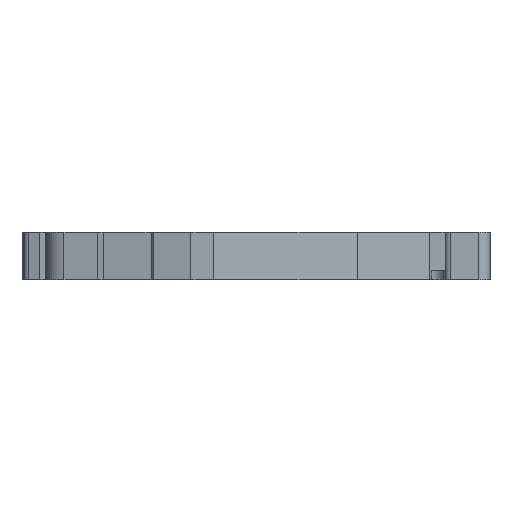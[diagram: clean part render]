
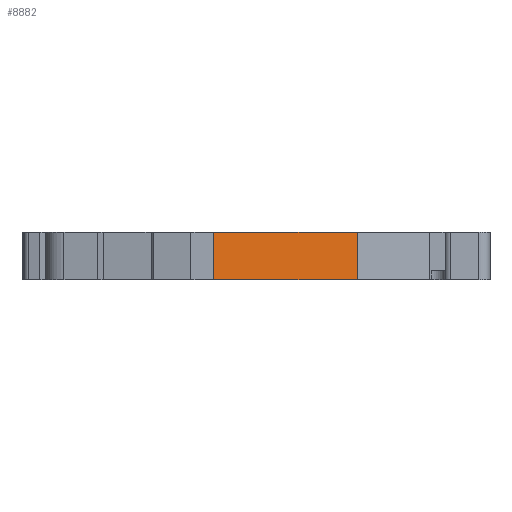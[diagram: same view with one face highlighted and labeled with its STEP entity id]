
A CAD part, left-side view. The second image highlights one B-rep face of the part: STEP entity #8882.
In plain terms, the highlighted planar face has unit normal (-0.979, -0.202, 0).
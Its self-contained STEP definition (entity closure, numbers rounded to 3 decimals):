
#408 = CARTESIAN_POINT ( 'NONE',  ( -31.082, 5.445, 3.253 ) ) ;
#756 = ORIENTED_EDGE ( 'NONE', *, *, #5221, .F. ) ;
#1021 = CARTESIAN_POINT ( 'NONE',  ( -31.082, 5.445, -0.947 ) ) ;
#1729 = FACE_OUTER_BOUND ( 'NONE', #4210, .T. ) ;
#1760 = AXIS2_PLACEMENT_3D ( 'NONE', #6964, #6794, #6775 ) ;
#2132 = EDGE_CURVE ( 'NONE', #5382, #10700, #8322, .T. ) ;
#2243 = DIRECTION ( 'NONE',  ( 0.202, -0.979, 0. ) ) ;
#2285 = CARTESIAN_POINT ( 'NONE',  ( -31.082, 5.445, -0.947 ) ) ;
#2337 = CARTESIAN_POINT ( 'NONE',  ( -28.445, -7.324, -0.947 ) ) ;
#2589 = ORIENTED_EDGE ( 'NONE', *, *, #2132, .T. ) ;
#3218 = DIRECTION ( 'NONE',  ( 0.202, -0.979, 0. ) ) ;
#3660 = LINE ( 'NONE', #4354, #7634 ) ;
#3939 = LINE ( 'NONE', #8839, #8306 ) ;
#4146 = ORIENTED_EDGE ( 'NONE', *, *, #4239, .T. ) ;
#4210 = EDGE_LOOP ( 'NONE', ( #4146, #9402, #756, #2589 ) ) ;
#4239 = EDGE_CURVE ( 'NONE', #10700, #4848, #11152, .T. ) ;
#4354 = CARTESIAN_POINT ( 'NONE',  ( -31.082, 5.445, 3.253 ) ) ;
#4660 = DIRECTION ( 'NONE',  ( 0., 0., -1. ) ) ;
#4848 = VERTEX_POINT ( 'NONE', #2337 ) ;
#5221 = EDGE_CURVE ( 'NONE', #5382, #9749, #3660, .T. ) ;
#5382 = VERTEX_POINT ( 'NONE', #408 ) ;
#5466 = VECTOR ( 'NONE', #8926, 1000. ) ;
#6775 = DIRECTION ( 'NONE',  ( -0.202, 0.979, 0. ) ) ;
#6794 = DIRECTION ( 'NONE',  ( 0.979, 0.202, 0. ) ) ;
#6806 = PLANE ( 'NONE',  #1760 ) ;
#6964 = CARTESIAN_POINT ( 'NONE',  ( -31.082, 5.445, 3.253 ) ) ;
#7634 = VECTOR ( 'NONE', #3218, 1000. ) ;
#8306 = VECTOR ( 'NONE', #4660, 1000. ) ;
#8322 = LINE ( 'NONE', #8327, #5466 ) ;
#8327 = CARTESIAN_POINT ( 'NONE',  ( -31.082, 5.445, 3.253 ) ) ;
#8839 = CARTESIAN_POINT ( 'NONE',  ( -28.445, -7.324, 3.253 ) ) ;
#8882 = ADVANCED_FACE ( 'NONE', ( #1729 ), #6806, .F. ) ;
#8926 = DIRECTION ( 'NONE',  ( 0., 0., -1. ) ) ;
#9402 = ORIENTED_EDGE ( 'NONE', *, *, #9467, .F. ) ;
#9467 = EDGE_CURVE ( 'NONE', #9749, #4848, #3939, .T. ) ;
#9749 = VERTEX_POINT ( 'NONE', #11670 ) ;
#10700 = VERTEX_POINT ( 'NONE', #1021 ) ;
#11026 = VECTOR ( 'NONE', #2243, 1000. ) ;
#11152 = LINE ( 'NONE', #2285, #11026 ) ;
#11670 = CARTESIAN_POINT ( 'NONE',  ( -28.445, -7.324, 3.253 ) ) ;
